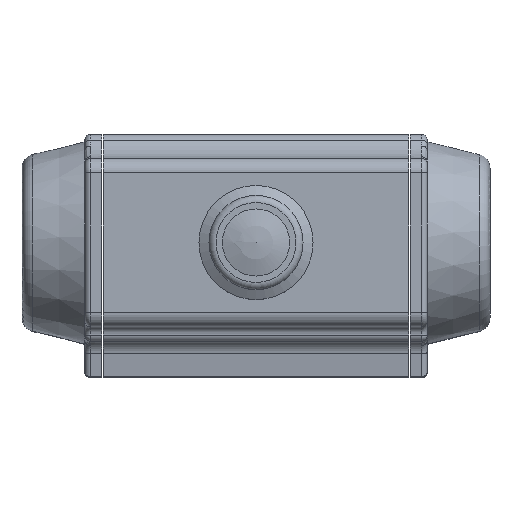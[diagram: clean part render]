
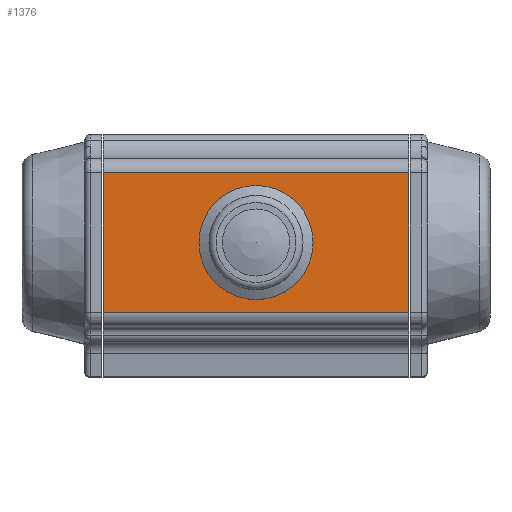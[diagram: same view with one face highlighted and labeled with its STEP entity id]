
A CAD part, top view. The second image highlights one B-rep face of the part: STEP entity #1376.
In plain terms, the highlighted planar face has unit normal (0, 0, 1).
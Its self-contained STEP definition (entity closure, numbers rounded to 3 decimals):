
#1376 = ADVANCED_FACE( '', ( #2875, #2876 ), #2877, .T. );
#2875 = FACE_BOUND( '', #7448, .T. );
#2876 = FACE_OUTER_BOUND( '', #7449, .T. );
#2877 = PLANE( '', #7450 );
#7448 = EDGE_LOOP( '', ( #11627 ) );
#7449 = EDGE_LOOP( '', ( #11628, #11629, #11630, #11631 ) );
#7450 = AXIS2_PLACEMENT_3D( '', #11632, #11633, #11634 );
#11627 = ORIENTED_EDGE( '', *, *, #13076, .F. );
#11628 = ORIENTED_EDGE( '', *, *, #12117, .F. );
#11629 = ORIENTED_EDGE( '', *, *, #13041, .F. );
#11630 = ORIENTED_EDGE( '', *, *, #12483, .T. );
#11631 = ORIENTED_EDGE( '', *, *, #13285, .T. );
#11632 = CARTESIAN_POINT( '', ( 53.5, -24.5, 42. ) );
#11633 = DIRECTION( '', ( 0., 0., 1. ) );
#11634 = DIRECTION( '', ( 1., 0., 0. ) );
#12117 = EDGE_CURVE( '', #13837, #13839, #13840, .T. );
#12483 = EDGE_CURVE( '', #14434, #14432, #14435, .T. );
#13041 = EDGE_CURVE( '', #14434, #13837, #15237, .T. );
#13076 = EDGE_CURVE( '', #15278, #15278, #15279, .T. );
#13285 = EDGE_CURVE( '', #14432, #13839, #15519, .T. );
#13837 = VERTEX_POINT( '', #16605 );
#13839 = VERTEX_POINT( '', #16607 );
#13840 = LINE( '', #16608, #16609 );
#14432 = VERTEX_POINT( '', #18151 );
#14434 = VERTEX_POINT( '', #18153 );
#14435 = LINE( '', #18154, #18155 );
#15237 = LINE( '', #21536, #21537 );
#15278 = VERTEX_POINT( '', #21613 );
#15279 = CIRCLE( '', #21614, 20. );
#15519 = LINE( '', #22431, #22432 );
#16605 = CARTESIAN_POINT( '', ( -53.5, -24.5, 42. ) );
#16607 = CARTESIAN_POINT( '', ( -53.5, 24.5, 42. ) );
#16608 = CARTESIAN_POINT( '', ( -53.5, -24.5, 42. ) );
#16609 = VECTOR( '', #22817, 1000. );
#18151 = CARTESIAN_POINT( '', ( 53.5, 24.5, 42. ) );
#18153 = CARTESIAN_POINT( '', ( 53.5, -24.5, 42. ) );
#18154 = CARTESIAN_POINT( '', ( 53.5, -24.5, 42. ) );
#18155 = VECTOR( '', #23101, 1000. );
#21536 = CARTESIAN_POINT( '', ( 53.5, -24.5, 42. ) );
#21537 = VECTOR( '', #23423, 1000. );
#21613 = CARTESIAN_POINT( '', ( 20., 0., 42. ) );
#21614 = AXIS2_PLACEMENT_3D( '', #23459, #23460, #23461 );
#22431 = CARTESIAN_POINT( '', ( 53.5, 24.5, 42. ) );
#22432 = VECTOR( '', #23563, 1000. );
#22817 = DIRECTION( '', ( 0., 1., 0. ) );
#23101 = DIRECTION( '', ( 0., 1., 0. ) );
#23423 = DIRECTION( '', ( -1., 0., 0. ) );
#23459 = CARTESIAN_POINT( '', ( 0., 0., 42. ) );
#23460 = DIRECTION( '', ( 0., 0., 1. ) );
#23461 = DIRECTION( '', ( 1., 0., 0. ) );
#23563 = DIRECTION( '', ( -1., 0., 0. ) );
